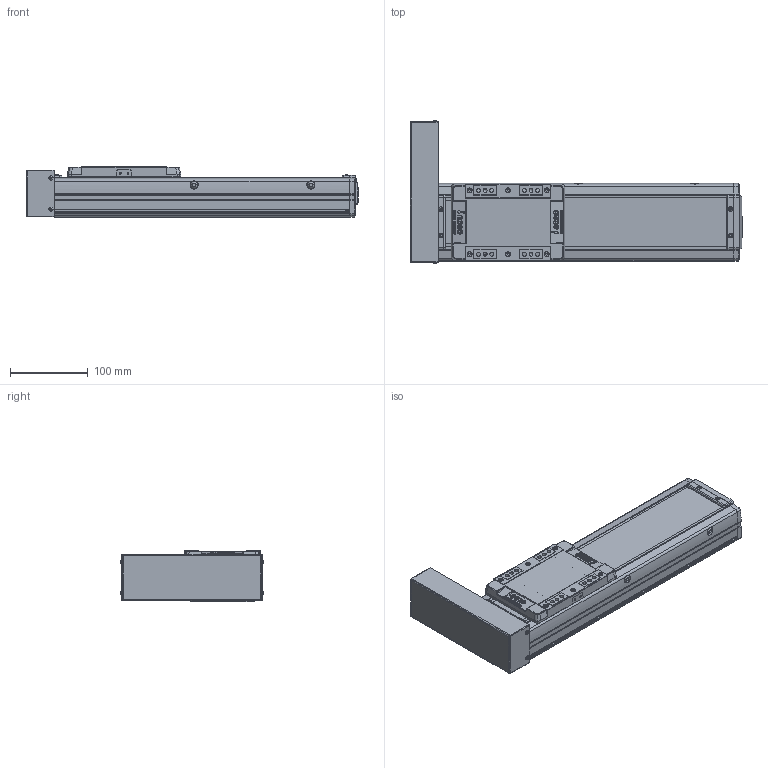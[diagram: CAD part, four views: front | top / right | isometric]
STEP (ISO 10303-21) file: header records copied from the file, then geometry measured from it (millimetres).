
FILE_DESCRIPTION(('STEP AP214'),'1');
FILE_NAME('Z:/Web/3D/SAN100/SAN100 양산용 (STEP)/SAN100ㅁㅁ-200PL.stp','2013-04-25T00:47:40',(' '),(' '),'Spatial InterOp 3D',' ',' ');
FILE_SCHEMA(('automotive_design'));
Length unit declared in the file: millimetre
Products named in the file (31): SUS COVER; SFX-SAN100; RRCV-SAN100; 스크루 : Round - M4.0 x 10.0; M3.0 x 6.0; 스크루 : Round - M3.0 x 6.0; FRBL-SAN100; SLBL-SAN100; SLCV-SAN100; 스크루 : Countersunk - M3.0 x 6.0; BASE; 스크루 : Round - M5.0 x 6.0; BTCV-SAN65; BHCS M3 X 6L
Bounding box: 426.5 x 184.13 x 66 mm (x, y, z)
Volume: 1544913 mm3; surface area: 357177.8 mm2
Topology: 31 solids, 32 shells, 1836 faces, 4784 edges, 3081 vertices
Faces by surface type: plane 925, cylinder 675, cone 158, sphere 44, torus 18, bspline 16
Entity records: 72354 total; most frequent: CARTESIAN_POINT 10942, DIRECTION 10083, ORIENTED_EDGE 9412, EDGE_CURVE 4706, AXIS2_PLACEMENT_3D 3603, VERTEX_POINT 3081, LINE 2877, VECTOR 2877
